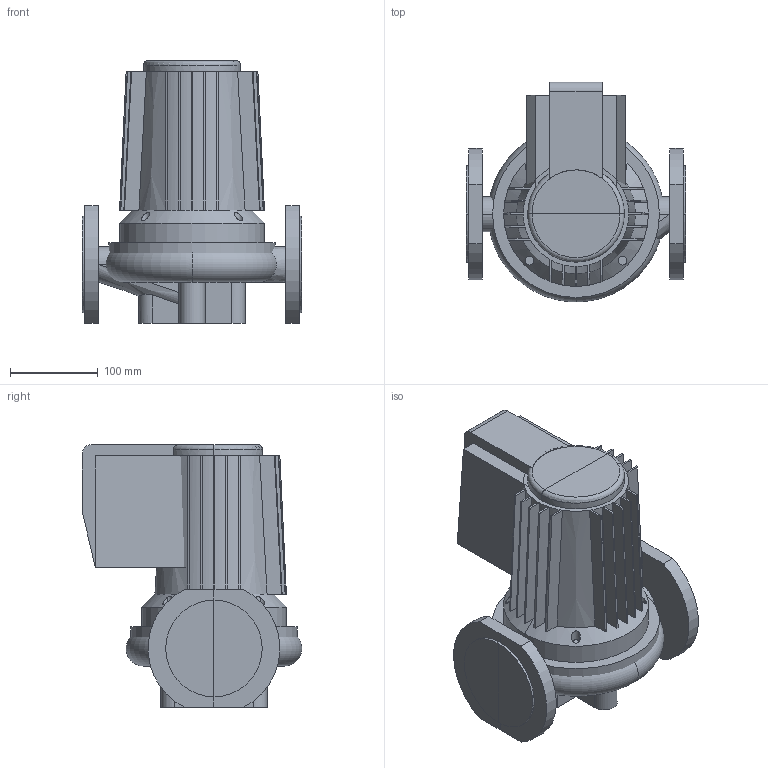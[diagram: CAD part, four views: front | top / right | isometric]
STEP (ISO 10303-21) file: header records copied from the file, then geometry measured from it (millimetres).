
FILE_DESCRIPTION(/* description */ (''),/* implementation_level */ '2;1');
FILE_NAME(/* name */ 'C:\Users\a.zyazeva\Desktop\Wellmix\TG TD WRE WRS\WRS 40-180 SF (380 В).stp',/* time_stamp */ '2024-08-28T00:16:38+03:00',/* author */ ('a.zyazeva'),/* organization */ (''),/* preprocessor_version */ 'ST-DEVELOPER v18.1',/* originating_system */ 'Autodesk Inventor 2022',/* authorisation */ '');
FILE_SCHEMA (('AUTOMOTIVE_DESIGN { 1 0 10303 214 3 1 1 }'));
Length unit declared in the file: millimetre
Products named in the file (1): WRS 40-180 SF (380 В)
Bounding box: 250 x 249.99 x 299 mm (x, y, z)
Volume: 7765603 mm3; surface area: 619789.3 mm2
Topology: 6 solids, 6 shells, 175 faces, 427 edges, 265 vertices
Faces by surface type: plane 105, cylinder 30, cone 17, bspline 17, torus 6
Entity records: 6483 total; most frequent: CARTESIAN_POINT 2552, ORIENTED_EDGE 854, DIRECTION 737, EDGE_CURVE 427, VERTEX_POINT 265, AXIS2_PLACEMENT_3D 264, LINE 209, VECTOR 209
